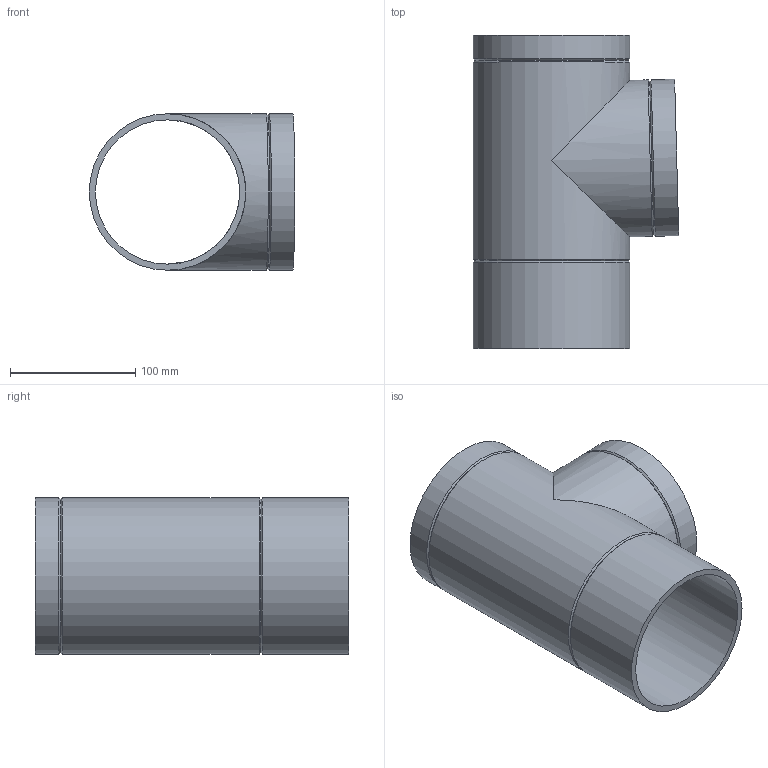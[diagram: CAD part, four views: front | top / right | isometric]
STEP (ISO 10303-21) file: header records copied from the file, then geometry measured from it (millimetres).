
FILE_DESCRIPTION(/* description */ (''),/* implementation_level */ '2;1');
FILE_NAME(/* name */ 'Z:\Geberit\Export\NewStep\368189.stp',/* time_stamp */ '2014-04-02T08:00:14+02:00',/* author */ ('nelson'),/* organization */ (''),/* preprocessor_version */ 'ST-DEVELOPER v15.2',/* originating_system */ 'Autodesk Inventor 2014',/* authorisation */ '');
FILE_SCHEMA (('AUTOMOTIVE_DESIGN { 1 0 10303 214 3 1 1 }'));
Length unit declared in the file: millimetre
Products named in the file (1): 368189
Bounding box: 164.1 x 250 x 125 mm (x, y, z)
Volume: 503767.6 mm3; surface area: 213026.5 mm2
Topology: 1 solids, 1 shells, 16 faces, 39 edges, 25 vertices
Faces by surface type: cylinder 7, cone 6, plane 3
Full cylindrical faces by diameter (mm): 115.2 x2, 125 x5
Entity records: 399 total; most frequent: DIRECTION 72, CARTESIAN_POINT 55, ORIENTED_EDGE 38, AXIS2_PLACEMENT_3D 36, EDGE_LOOP 34, FACE_BOUND 22, VERTEX_POINT 19, EDGE_CURVE 19
